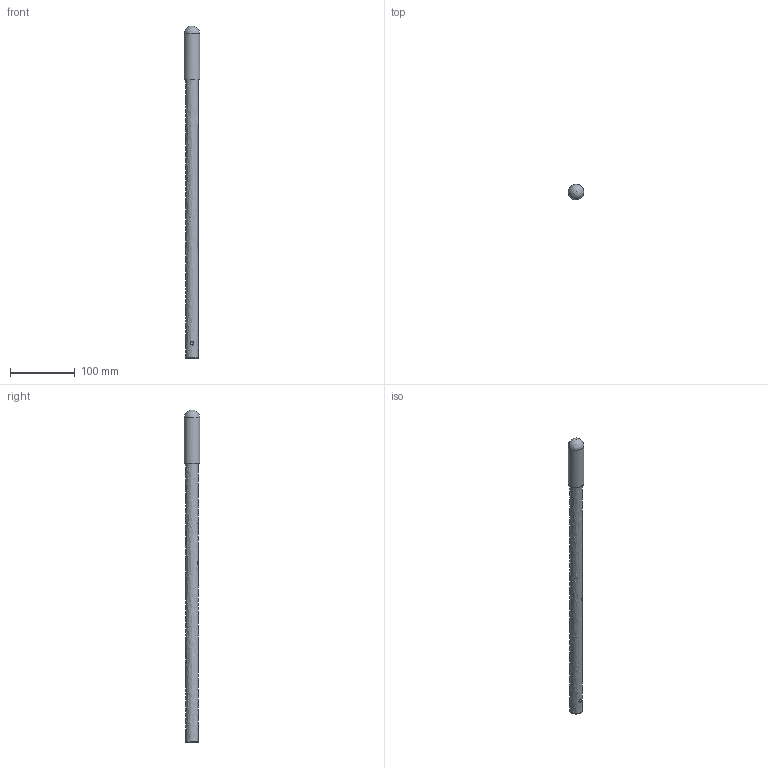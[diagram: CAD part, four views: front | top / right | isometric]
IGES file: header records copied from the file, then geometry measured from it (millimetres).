
Global section: file name: No Iges File Name specified; native system: Autodesk Inventor 2013; preprocessor: AutoDesk Inventor Iges Exporter R2013; author: christian.scardovi; date: 20240917.082305; units: millimetre
Bounding box: 23.96 x 24 x 511 mm (x, y, z)
Volume: 81945.8 mm3; surface area: 57342.8 mm2
Topology: 1 solids, 1 shells, 12 faces, 29 edges, 19 vertices
Faces by surface type: bspline 12
